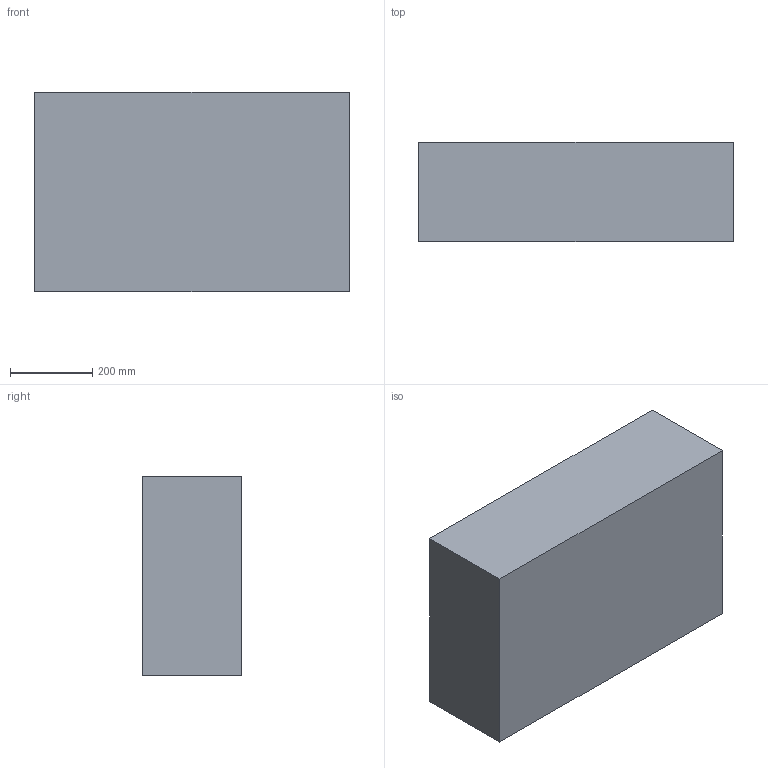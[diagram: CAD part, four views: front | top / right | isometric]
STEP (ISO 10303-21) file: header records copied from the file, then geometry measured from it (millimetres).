
FILE_DESCRIPTION (( 'STEP AP214' ), '1' );
FILE_NAME ('1652-931B-CLR.STEP', '2019-07-08T14:40:11', ( '' ), ( '' ), 'SwSTEP 2.0', 'SolidWorks 2016', '' );
FILE_SCHEMA (( 'AUTOMOTIVE_DESIGN' ));
Length unit declared in the file: inch
Products named in the file (1): 1652-931B-CLR
Bounding box: 765.46 x 241.3 x 484.97 mm (x, y, z)
Volume: 16480949.8 mm3; surface area: 1834692.9 mm2
Topology: 1 solids, 1 shells, 180 faces, 421 edges, 238 vertices
Faces by surface type: plane 78, cylinder 54, bspline 36, cone 8, sphere 4
Entity records: 6267 total; most frequent: CARTESIAN_POINT 2450, ORIENTED_EDGE 830, DIRECTION 733, EDGE_CURVE 415, VECTOR 267, LINE 267, VERTEX_POINT 238, AXIS2_PLACEMENT_3D 233
